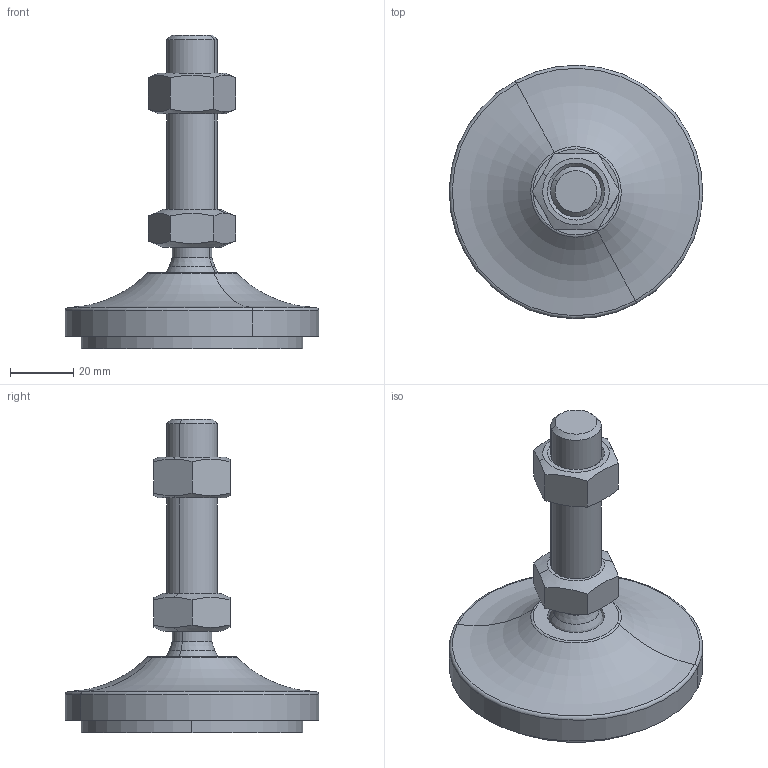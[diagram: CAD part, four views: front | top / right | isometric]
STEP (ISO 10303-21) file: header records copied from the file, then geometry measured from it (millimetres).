
FILE_DESCRIPTION(('CATIA V5 STEP Exchange'),'2;1');
FILE_NAME('C:\Users\ALI OZGUN\Desktop\alhan\saplama2\560802610AV.stp','2017-09-21T10:30:33+00:00',('none'),('none'),'CATIA Version 5 Release 21 GA (IN-10)','CATIA V5 STEP AP203','none');
FILE_SCHEMA(('CONFIG_CONTROL_DESIGN'));
Length unit declared in the file: millimetre
Products named in the file (1): 560802610AV
Bounding box: 79.98 x 79.98 x 99 mm (x, y, z)
Volume: 99478.5 mm3; surface area: 31261.4 mm2
Topology: 4 solids, 4 shells, 64 faces, 142 edges, 87 vertices
Faces by surface type: plane 22, cylinder 16, cone 16, torus 6, revolution 2, sphere 2
Entity records: 1949 total; most frequent: CARTESIAN_POINT 641, ORIENTED_EDGE 280, DIRECTION 198, EDGE_CURVE 140, AXIS2_PLACEMENT_3D 107, VERTEX_POINT 87, EDGE_LOOP 71, ADVANCED_FACE 64
